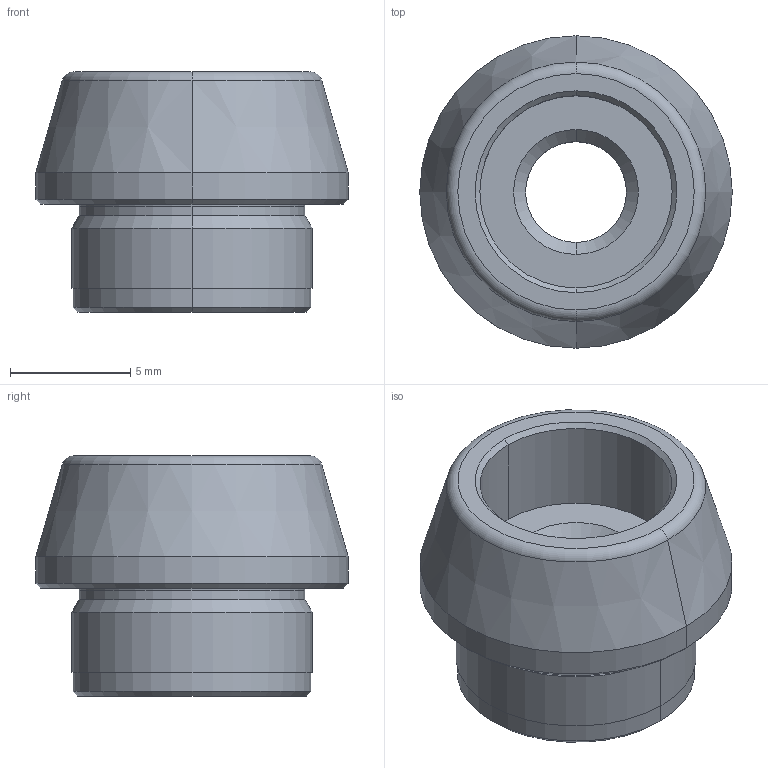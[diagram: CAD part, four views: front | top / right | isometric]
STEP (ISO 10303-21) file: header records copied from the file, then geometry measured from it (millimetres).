
FILE_DESCRIPTION (( 'STEP AP203' ), '1' );
FILE_NAME ('CP720-10032N.step', '2024-12-25T02:26:28', ( '' ), ( '' ), 'SwSTEP 2.0', 'SolidWorks 2023', '' );
FILE_SCHEMA (( 'CONFIG_CONTROL_DESIGN' ));
Length unit declared in the file: millimetre
Products named in the file (1): CP720-10032N
Bounding box: 13 x 13 x 10 mm (x, y, z)
Volume: 682.1 mm3; surface area: 725.3 mm2
Topology: 1 solids, 1 shells, 37 faces, 74 edges, 42 vertices
Faces by surface type: cone 16, cylinder 12, plane 5, torus 4
Entity records: 1039 total; most frequent: DIRECTION 196, CARTESIAN_POINT 154, ORIENTED_EDGE 148, AXIS2_PLACEMENT_3D 84, EDGE_CURVE 74, CIRCLE 46, VERTEX_POINT 42, EDGE_LOOP 42
